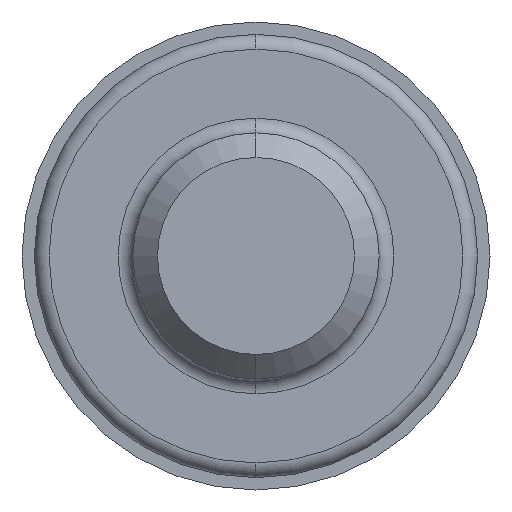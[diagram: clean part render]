
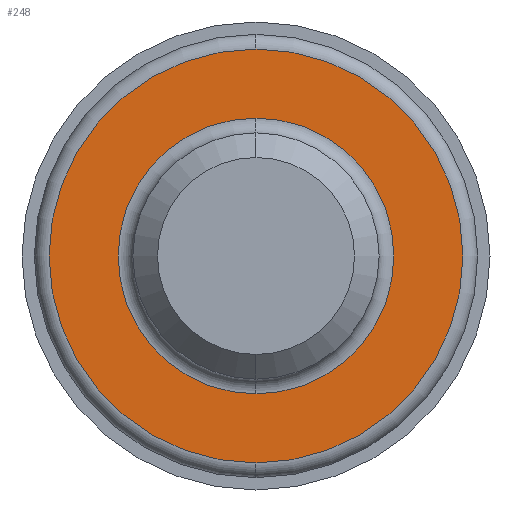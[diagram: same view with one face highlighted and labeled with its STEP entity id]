
A CAD part, left-side view. The second image highlights one B-rep face of the part: STEP entity #248.
In plain terms, the highlighted planar face has unit normal (-1, 0, 0).
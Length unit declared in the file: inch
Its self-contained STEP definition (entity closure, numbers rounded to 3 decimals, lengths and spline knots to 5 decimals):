
#6 = AXIS2_PLACEMENT_3D ( 'NONE', #461, #283, #132 ) ;
#8 = EDGE_CURVE ( 'NONE', #174, #573, #589, .T. ) ;
#10 = CARTESIAN_POINT ( 'NONE',  ( 2., 0., 0. ) ) ;
#13 = CARTESIAN_POINT ( 'NONE',  ( 2., 0., 0. ) ) ;
#39 = ORIENTED_EDGE ( 'NONE', *, *, #8, .F. ) ;
#42 = DIRECTION ( 'NONE',  ( 0., 0., 1. ) ) ;
#56 = AXIS2_PLACEMENT_3D ( 'NONE', #10, #481, #535 ) ;
#111 = FACE_OUTER_BOUND ( 'NONE', #247, .T. ) ;
#132 = DIRECTION ( 'NONE',  ( 0., 0., 1. ) ) ;
#134 = AXIS2_PLACEMENT_3D ( 'NONE', #326, #543, #647 ) ;
#166 = AXIS2_PLACEMENT_3D ( 'NONE', #13, #218, #547 ) ;
#174 = VERTEX_POINT ( 'NONE', #216 ) ;
#189 = EDGE_CURVE ( 'NONE', #573, #174, #230, .T. ) ;
#203 = CARTESIAN_POINT ( 'NONE',  ( 2., 0., 0.42 ) ) ;
#215 = PLANE ( 'NONE',  #134 ) ;
#216 = CARTESIAN_POINT ( 'NONE',  ( 2., 0., 0.2799 ) ) ;
#218 = DIRECTION ( 'NONE',  ( -1., 0., 0. ) ) ;
#224 = VERTEX_POINT ( 'NONE', #439 ) ;
#230 = CIRCLE ( 'NONE', #166, 0.2799 ) ;
#247 = EDGE_LOOP ( 'NONE', ( #291, #568 ) ) ;
#248 = ADVANCED_FACE ( 'NONE', ( #550, #111 ), #215, .F. ) ;
#283 = DIRECTION ( 'NONE',  ( -1., 0., 0. ) ) ;
#284 = CIRCLE ( 'NONE', #6, 0.42 ) ;
#291 = ORIENTED_EDGE ( 'NONE', *, *, #471, .T. ) ;
#298 = EDGE_CURVE ( 'NONE', #224, #395, #284, .T. ) ;
#326 = CARTESIAN_POINT ( 'NONE',  ( 2., 0.42, 0. ) ) ;
#395 = VERTEX_POINT ( 'NONE', #203 ) ;
#439 = CARTESIAN_POINT ( 'NONE',  ( 2., 0., -0.42 ) ) ;
#461 = CARTESIAN_POINT ( 'NONE',  ( 2., 0., 0. ) ) ;
#471 = EDGE_CURVE ( 'NONE', #395, #224, #671, .T. ) ;
#481 = DIRECTION ( 'NONE',  ( -1., 0., 0. ) ) ;
#501 = ORIENTED_EDGE ( 'NONE', *, *, #189, .F. ) ;
#502 = AXIS2_PLACEMENT_3D ( 'NONE', #689, #630, #42 ) ;
#535 = DIRECTION ( 'NONE',  ( 0., 0., 1. ) ) ;
#543 = DIRECTION ( 'NONE',  ( 1., 0., 0. ) ) ;
#547 = DIRECTION ( 'NONE',  ( 0., 0., 1. ) ) ;
#550 = FACE_BOUND ( 'NONE', #626, .T. ) ;
#568 = ORIENTED_EDGE ( 'NONE', *, *, #298, .T. ) ;
#573 = VERTEX_POINT ( 'NONE', #593 ) ;
#589 = CIRCLE ( 'NONE', #502, 0.2799 ) ;
#593 = CARTESIAN_POINT ( 'NONE',  ( 2., 0., -0.2799 ) ) ;
#626 = EDGE_LOOP ( 'NONE', ( #39, #501 ) ) ;
#630 = DIRECTION ( 'NONE',  ( -1., 0., 0. ) ) ;
#647 = DIRECTION ( 'NONE',  ( 0., 0., -1. ) ) ;
#671 = CIRCLE ( 'NONE', #56, 0.42 ) ;
#689 = CARTESIAN_POINT ( 'NONE',  ( 2., 0., 0. ) ) ;
